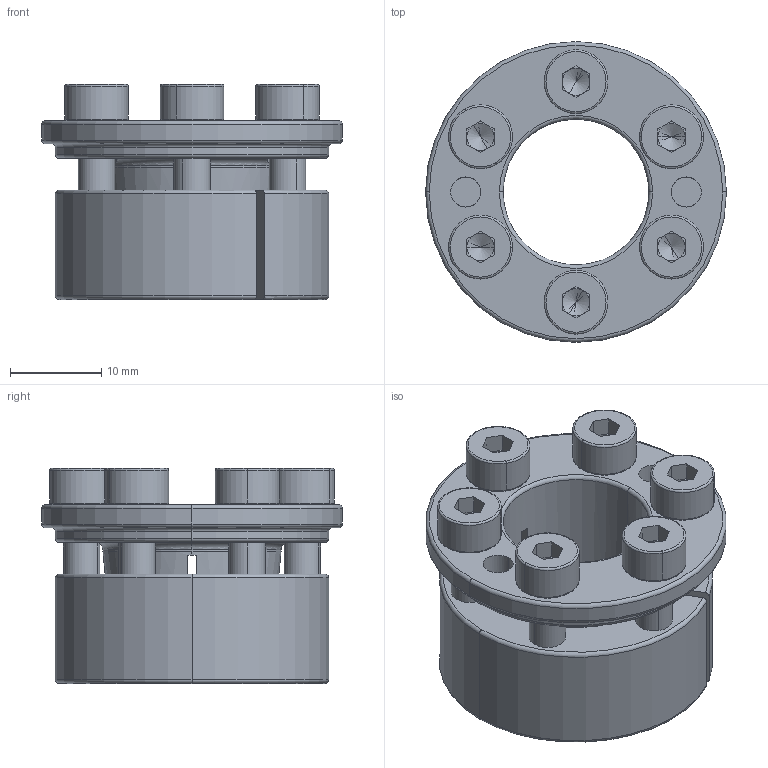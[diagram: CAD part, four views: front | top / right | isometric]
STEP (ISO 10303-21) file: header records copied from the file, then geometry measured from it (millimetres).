
FILE_DESCRIPTION (( 'STEP AP203' ), '1' );
FILE_NAME ('SAPL-A-16-30.STEP', '2013-07-22T05:27:11', ( 'MYCOM' ), ( '' ), 'SwSTEP 2.0', 'SolidWorks 2012', '' );
FILE_SCHEMA (( 'CONFIG_CONTROL_DESIGN' ));
Length unit declared in the file: millimetre
Products named in the file (1): SAPL-A-16-30
Bounding box: 33 x 33 x 23.6 mm (x, y, z)
Volume: 9358.7 mm3; surface area: 6792.6 mm2
Topology: 1 solids, 1 shells, 288 faces, 717 edges, 428 vertices
Faces by surface type: plane 113, cylinder 78, torus 68, cone 29
Entity records: 8860 total; most frequent: CARTESIAN_POINT 1769, DIRECTION 1600, ORIENTED_EDGE 1410, EDGE_CURVE 705, AXIS2_PLACEMENT_3D 660, VERTEX_POINT 428, CIRCLE 371, EDGE_LOOP 323
